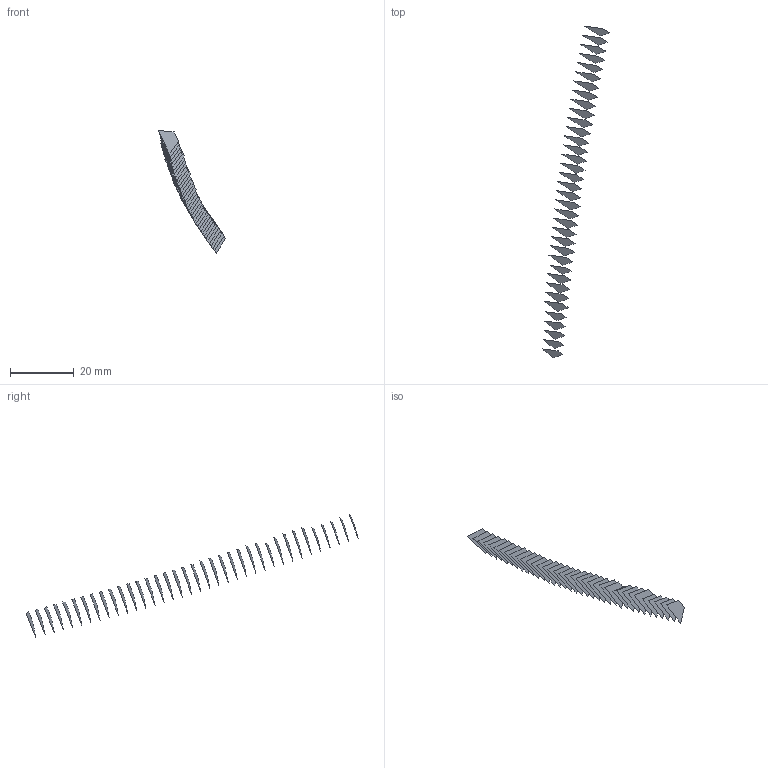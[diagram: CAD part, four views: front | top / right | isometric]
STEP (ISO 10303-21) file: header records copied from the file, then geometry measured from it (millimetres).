
FILE_DESCRIPTION(('FreeCAD Model'),'2;1');
FILE_NAME('Open CASCADE Shape Model','2022-05-22T07:50:29',('FreeCAD'),( 'FreeCAD'),'Open CASCADE STEP processor 7.5','FreeCAD','Unknown');
FILE_SCHEMA(('AUTOMOTIVE_DESIGN { 1 0 10303 214 1 1 1 1 }'));
Length unit declared in the file: millimetre
Products named in the file (37): Open CASCADE STEP translator 7.5 4; Open CASCADE STEP translator 7.5 4.1; Open CASCADE STEP translator 7.5 4.2; Open CASCADE STEP translator 7.5 4.3; Open CASCADE STEP translator 7.5 4.4; Open CASCADE STEP translator 7.5 4.5; Open CASCADE STEP translator 7.5 4.6; Open CASCADE STEP translator 7.5 4.7; Open CASCADE STEP translator 7.5 4.8; Open CASCADE STEP translator 7.5 4.9; Open CASCADE STEP translator 7.5 4.10; Open CASCADE STEP translator 7.5 4.11; Open CASCADE STEP translator 7.5 4.12; Open CASCADE STEP translator 7.5 4.13; Open CASCADE STEP translator 7.5 4.14; Open CASCADE STEP translator 7.5 4.15; Open CASCADE STEP translator 7.5 4.16; Open CASCADE STEP translator 7.5 4.17; Open CASCADE STEP translator 7.5 4.18; Open CASCADE STEP translator 7.5 4.19; Open CASCADE STEP translator 7.5 4.20; Open CASCADE STEP translator 7.5 4.21; Open CASCADE STEP translator 7.5 4.22; Open CASCADE STEP translator 7.5 4.23; Open CASCADE STEP translator 7.5 4.24; Open CASCADE STEP translator 7.5 4.25; Open CASCADE STEP translator 7.5 4.26; Open CASCADE STEP translator 7.5 4.27; Open CASCADE STEP translator 7.5 4.28; Open CASCADE STEP translator 7.5 4.29; Open CASCADE STEP translator 7.5 4.30; Open CASCADE STEP translator 7.5 4.31; Open CASCADE STEP translator 7.5 4.32; Open CASCADE STEP translator 7.5 4.33; Open CASCADE STEP translator 7.5 4.34; Open CASCADE STEP translator 7.5 4.35; Open CASCADE STEP translator 7.5 4.36
Assembly tree (36 placements, depth 2):
  Open CASCADE STEP translator 7.5 4
    Open CASCADE STEP translator 7.5 4.1
    Open CASCADE STEP translator 7.5 4.2
    Open CASCADE STEP translator 7.5 4.3
    Open CASCADE STEP translator 7.5 4.4
    Open CASCADE STEP translator 7.5 4.5
    Open CASCADE STEP translator 7.5 4.6
    Open CASCADE STEP translator 7.5 4.7
    Open CASCADE STEP translator 7.5 4.8
    Open CASCADE STEP translator 7.5 4.9
    Open CASCADE STEP translator 7.5 4.10
    Open CASCADE STEP translator 7.5 4.11
    Open CASCADE STEP translator 7.5 4.12
    Open CASCADE STEP translator 7.5 4.13
    Open CASCADE STEP translator 7.5 4.14
    Open CASCADE STEP translator 7.5 4.15
    Open CASCADE STEP translator 7.5 4.16
    Open CASCADE STEP translator 7.5 4.17
    Open CASCADE STEP translator 7.5 4.18
    Open CASCADE STEP translator 7.5 4.19
    Open CASCADE STEP translator 7.5 4.20
    Open CASCADE STEP translator 7.5 4.21
    Open CASCADE STEP translator 7.5 4.22
    Open CASCADE STEP translator 7.5 4.23
    Open CASCADE STEP translator 7.5 4.24
    Open CASCADE STEP translator 7.5 4.25
    Open CASCADE STEP translator 7.5 4.26
    Open CASCADE STEP translator 7.5 4.27
    Open CASCADE STEP translator 7.5 4.28
    Open CASCADE STEP translator 7.5 4.29
    Open CASCADE STEP translator 7.5 4.30
    Open CASCADE STEP translator 7.5 4.31
    Open CASCADE STEP translator 7.5 4.32
    Open CASCADE STEP translator 7.5 4.33
    Open CASCADE STEP translator 7.5 4.34
    Open CASCADE STEP translator 7.5 4.35
    Open CASCADE STEP translator 7.5 4.36
Bounding box: 20.95 x 103.76 x 38.42 mm (x, y, z)
Surface area: 1201.6 mm2 (no closed solid volume)
Topology: 0 solids, 36 shells, 36 faces, 309 edges, 309 vertices
Faces by surface type: bspline 36
Entity records: 5041 total; most frequent: CARTESIAN_POINT 1726, B_SPLINE_CURVE_WITH_KNOTS 618, ORIENTED_EDGE 309, EDGE_CURVE 309, VERTEX_POINT 309, SURFACE_CURVE 309, PCURVE 309, DEFINITIONAL_REPRESENTATION 309
